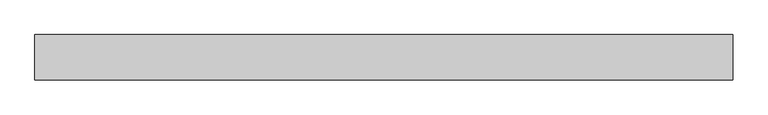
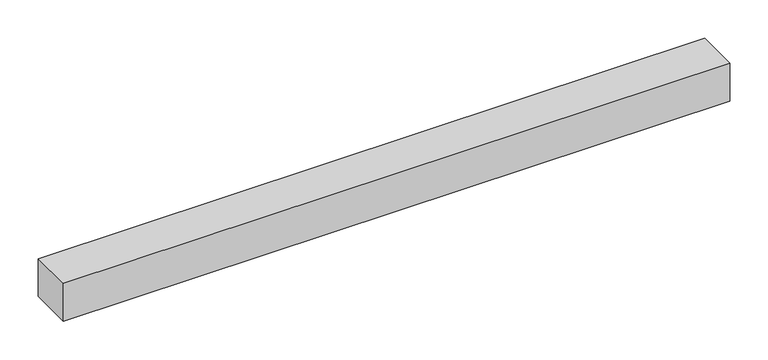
"""IFC4 building model written with IfcOpenShell, lengths in millimetres: light fixture geometry, GENILED_Светильник светодиодный_Trade Linear Advanced : Trade Linear Advanced 1000x65x60 20Вт IP54 Черный 4000К."""

from ifc_helpers import new_model, si_unit, frame, origin, place, context, project, spatial, polyline, outline, extrude, source, transform, mapped, element, save


def light_fixture_2bea209e(model_context):
    return source(origin(), model_context, "Body", "SweptSolid", [
        extrude(outline(polyline([(500.0, 32.5), (500.0, -32.5), (-500.0, -32.5), (-500.0, 32.5), (500.0, 32.5)])), frame((0.0, 0.0, -60.0), z_axis=(0.0, 0.0, 1.0), x_axis=(1.0, 0.0, 0.0)), (0.0, 0.0, 1.0), 60.0),
    ])


if __name__ == "__main__":
    model = new_model("IFC4")
    model_context = context("Model", 3, world=origin())
    ifc_project = project(units=[si_unit("LENGTHUNIT", "METRE", prefix="MILLI")], contexts=[model_context])
    site = spatial("IfcSite", under=ifc_project)
    building = spatial("IfcBuilding", under=site)
    placement = place(None, origin())
    light_fixture_shape = light_fixture_2bea209e(model_context)
    element("IfcLightFixture", 1, ObjectType="GENILED_Светильник светодиодный_Trade Linear Advanced : Trade Linear Advanced 1000x65x60 20Вт IP54 Черный 4000К", at=placement, inside=building, context=model_context, shape_type="MappedRepresentation", body=[
        mapped(light_fixture_shape, transform((0.0, 0.0, 0.0), x_axis=(1.0, 0.0, 0.0), y_axis=(0.0, 1.0, 0.0), z_axis=(0.0, 0.0, 1.0))),
    ])
    save(model, "model.ifc")
